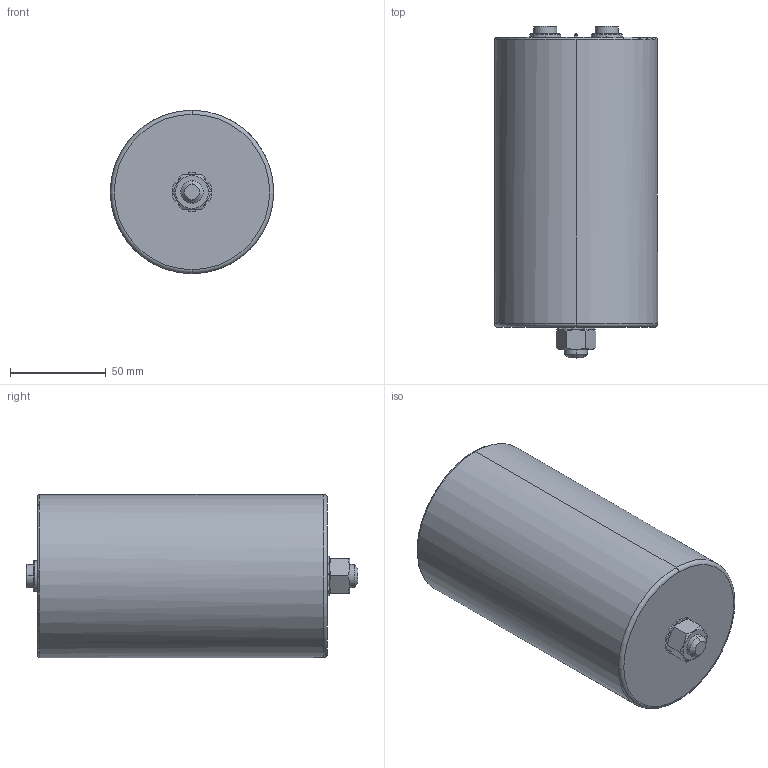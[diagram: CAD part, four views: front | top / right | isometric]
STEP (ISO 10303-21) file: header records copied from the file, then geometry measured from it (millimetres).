
FILE_DESCRIPTION (( 'STEP AP214' ), '1' );
FILE_NAME ('B25694M Series D85 Hc151 Ht157.STEP', '2025-07-24T05:23:01', ( '' ), ( '' ), 'SwSTEP 2.0', 'SolidWorks 2019', '' );
FILE_SCHEMA (( 'AUTOMOTIVE_DESIGN' ));
Length unit declared in the file: millimetre
Products named in the file (1): B25694M Series D85 Hc151 Ht157
Bounding box: 85 x 173 x 85 mm (x, y, z)
Volume: 861554.7 mm3; surface area: 53128.6 mm2
Topology: 1 solids, 2 shells, 137 faces, 331 edges, 202 vertices
Faces by surface type: plane 59, cylinder 48, cone 22, torus 8
Entity records: 4131 total; most frequent: CARTESIAN_POINT 799, DIRECTION 761, ORIENTED_EDGE 654, EDGE_CURVE 327, AXIS2_PLACEMENT_3D 308, VERTEX_POINT 202, CIRCLE 170, EDGE_LOOP 147
